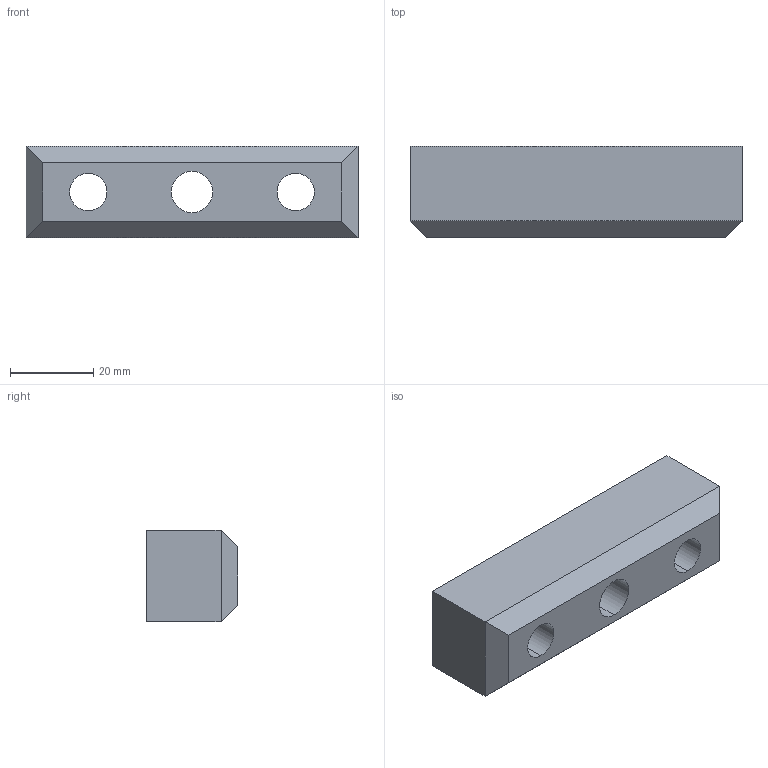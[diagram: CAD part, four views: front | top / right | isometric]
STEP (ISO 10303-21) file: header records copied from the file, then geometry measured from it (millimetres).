
FILE_DESCRIPTION(('CATIA V5 STEP Exchange'),'2;1');
FILE_NAME('C:\Users\Raffaele\Desktop\3D X SITO CF\761\GSB_OILLESS_M31705022080\STEP-2.03\761-022080.stp','2019-07-05T06:23:43+00:00',('none'),('none'),'CATIA Version 5 Release 20 GA (IN-10)','CATIA V5 STEP AP203','none');
FILE_SCHEMA(('CONFIG_CONTROL_DESIGN'));
Length unit declared in the file: millimetre
Products named in the file (1): 761-022080
Bounding box: 80 x 22 x 22 mm (x, y, z)
Volume: 29009.9 mm3; surface area: 9624.1 mm2
Topology: 1 solids, 1 shells, 25 faces, 80 edges, 60 vertices
Faces by surface type: plane 13, cylinder 12
Entity records: 1074 total; most frequent: CARTESIAN_POINT 316, ORIENTED_EDGE 160, DIRECTION 118, EDGE_CURVE 80, AXIS2_PLACEMENT_3D 62, VERTEX_POINT 60, CIRCLE 36, EDGE_LOOP 34
